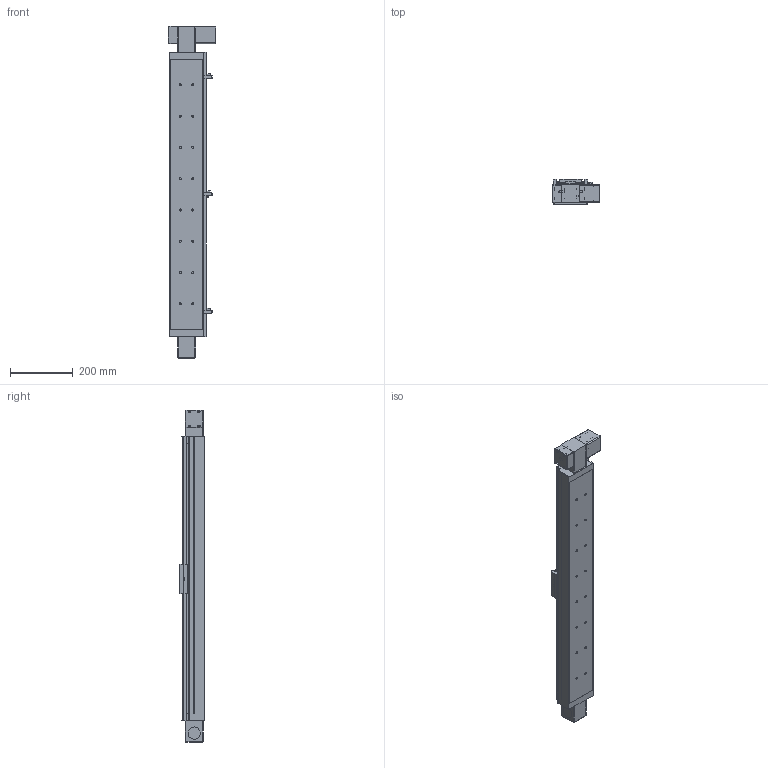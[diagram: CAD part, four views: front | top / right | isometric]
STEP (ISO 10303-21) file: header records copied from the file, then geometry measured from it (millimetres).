
FILE_DESCRIPTION((''),'2;1');
FILE_NAME('E:\uia actuator\UIA actuator 3d- 2015\Belt drive actuator\UIA110BR12(15)DC\UIA110BR12(15)DC-STEP FILE\UIA110BR12(15) stp file 13May16\UIA110BR12(15)DC-750-M23-P13-C10-S.stp','2016-05-13T15:57:44',('h029'),(''),'Autodesk Inventor 11','Autodesk Inventor 11','');
FILE_SCHEMA(('AUTOMOTIVE_DESIGN { 1 0 10303 214 1 1 1 1 }'));
Length unit declared in the file: millimetre
Products named in the file (11): UIA110BR12(15)DC-750; UIA110BR12(15)DC-750-body; UIA110BR12(15)DC-750-Sensor rail; UIA110B-Carriage; UIA110B- Sensor Flag; UIA110B-Cover; SOH-32C; SOH-32C-3; SOH-32C-1; SOH-32C-2; Motor mount
Assembly tree (10 placements, depth 3):
  UIA110BR12(15)DC-750
    UIA110BR12(15)DC-750-body
    UIA110BR12(15)DC-750-Sensor rail
    UIA110B-Carriage
    UIA110B- Sensor Flag
    UIA110B-Cover
    SOH-32C
      SOH-32C-3
      SOH-32C-1
      SOH-32C-2
    Motor mount
Bounding box: 152 x 81 x 1061 mm (x, y, z)
Volume: 3338202.5 mm3; surface area: 933336.5 mm2
Topology: 9 solids, 13 shells, 740 faces, 2074 edges, 1332 vertices
Faces by surface type: plane 463, cylinder 187, cone 42, bspline 40, sphere 8
Full cylindrical faces by diameter (mm): 2.459 x4, 3 x2, 3.242 x8, 3.5 x4, 4 x10, 4.5 x4, 4.917 x8, 5 x2, 6.35 x1, 6.5 x16, 7.5 x4, 10 x3, 11 x16, 12 x1, 20 x2, 32 x3, 37 x1, 38.1 x1, 39 x2, 43.5 x1, 46 x2
Entity records: 24538 total; most frequent: CARTESIAN_POINT 6081, DIRECTION 3771, ORIENTED_EDGE 3606, EDGE_CURVE 1803, AXIS2_PLACEMENT_3D 1288, VERTEX_POINT 1240, VECTOR 1195, LINE 1195
